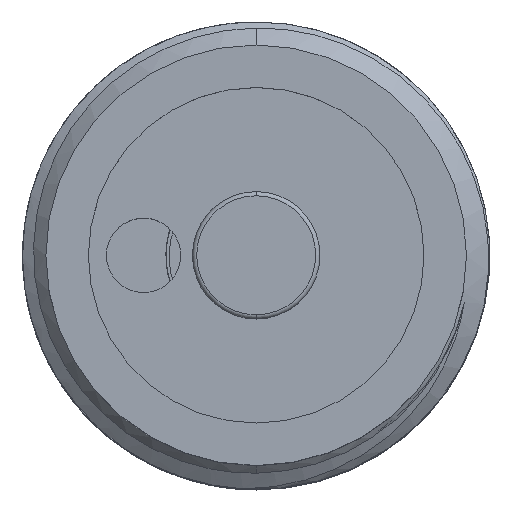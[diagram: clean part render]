
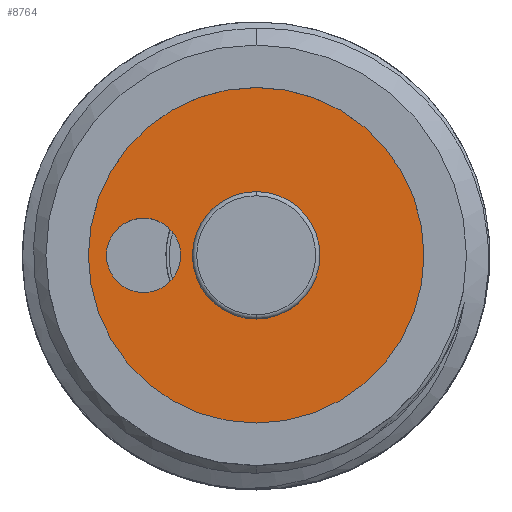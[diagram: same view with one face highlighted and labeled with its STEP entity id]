
A CAD part, top view. The second image highlights one B-rep face of the part: STEP entity #8764.
In plain terms, the highlighted planar face has unit normal (0, 0, 1) as drawn and (-1, 0, 0) by its records, which use the part's own axes.
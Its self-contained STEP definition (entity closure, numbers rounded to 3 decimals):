
#8633=CARTESIAN_POINT('',(0.,0.,0.));
#8634=DIRECTION('',(1.,0.,0.));
#8635=DIRECTION('',(0.,-1.,0.));
#8636=AXIS2_PLACEMENT_3D('',#8633,#8634,#8635);
#8638=CARTESIAN_POINT('',(0.,0.,0.));
#8639=DIRECTION('',(1.,0.,0.));
#8640=DIRECTION('',(0.,1.,0.));
#8641=AXIS2_PLACEMENT_3D('',#8638,#8639,#8640);
#8643=CARTESIAN_POINT('',(0.,0.,0.));
#8644=DIRECTION('',(-1.,0.,0.));
#8645=DIRECTION('',(0.,-1.,0.));
#8646=AXIS2_PLACEMENT_3D('',#8643,#8644,#8645);
#8648=CARTESIAN_POINT('',(0.,0.,0.));
#8649=DIRECTION('',(-1.,0.,0.));
#8650=DIRECTION('',(0.,1.,0.));
#8651=AXIS2_PLACEMENT_3D('',#8648,#8649,#8650);
#8653=CARTESIAN_POINT('',(0.,5.3,0.));
#8654=DIRECTION('',(-1.,0.,0.));
#8655=DIRECTION('',(0.,-1.,0.));
#8656=AXIS2_PLACEMENT_3D('',#8653,#8654,#8655);
#8658=CARTESIAN_POINT('',(0.,5.3,0.));
#8659=DIRECTION('',(-1.,0.,0.));
#8660=DIRECTION('',(0.,1.,0.));
#8661=AXIS2_PLACEMENT_3D('',#8658,#8659,#8660);
#8717=CARTESIAN_POINT('',(0.,-8.5,0.));
#8718=CARTESIAN_POINT('',(0.,8.5,0.));
#8719=VERTEX_POINT('',#8717);
#8720=VERTEX_POINT('',#8718);
#8721=CARTESIAN_POINT('',(0.,-2.,0.));
#8722=CARTESIAN_POINT('',(0.,2.,0.));
#8723=VERTEX_POINT('',#8721);
#8724=VERTEX_POINT('',#8722);
#8725=CARTESIAN_POINT('',(0.,3.55,0.));
#8726=CARTESIAN_POINT('',(0.,7.05,0.));
#8727=VERTEX_POINT('',#8725);
#8728=VERTEX_POINT('',#8726);
#8741=CARTESIAN_POINT('',(0.,0.,0.));
#8742=DIRECTION('',(1.,0.,0.));
#8743=DIRECTION('',(0.,-1.,0.));
#8744=AXIS2_PLACEMENT_3D('',#8741,#8742,#8743);
#8745=PLANE('',#8744);
#8747=ORIENTED_EDGE('',*,*,#8746,.T.);
#8749=ORIENTED_EDGE('',*,*,#8748,.T.);
#8750=EDGE_LOOP('',(#8747,#8749));
#8751=FACE_OUTER_BOUND('',#8750,.F.);
#8753=ORIENTED_EDGE('',*,*,#8752,.T.);
#8755=ORIENTED_EDGE('',*,*,#8754,.T.);
#8756=EDGE_LOOP('',(#8753,#8755));
#8757=FACE_BOUND('',#8756,.F.);
#8759=ORIENTED_EDGE('',*,*,#8758,.T.);
#8761=ORIENTED_EDGE('',*,*,#8760,.T.);
#8762=EDGE_LOOP('',(#8759,#8761));
#8763=FACE_BOUND('',#8762,.F.);
#8764=ADVANCED_FACE('',(#8751,#8757,#8763),#8745,.F.);
#8637=CIRCLE('',#8636,8.5);
#8642=CIRCLE('',#8641,8.5);
#8647=CIRCLE('',#8646,2.);
#8652=CIRCLE('',#8651,2.);
#8657=CIRCLE('',#8656,1.75);
#8662=CIRCLE('',#8661,1.75);
#8746=EDGE_CURVE('',#8719,#8720,#8637,.T.);
#8748=EDGE_CURVE('',#8720,#8719,#8642,.T.);
#8752=EDGE_CURVE('',#8723,#8724,#8647,.T.);
#8754=EDGE_CURVE('',#8724,#8723,#8652,.T.);
#8758=EDGE_CURVE('',#8727,#8728,#8657,.T.);
#8760=EDGE_CURVE('',#8728,#8727,#8662,.T.);
